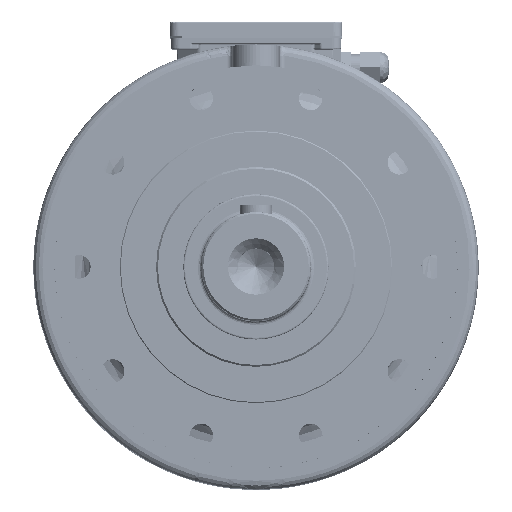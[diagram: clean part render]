
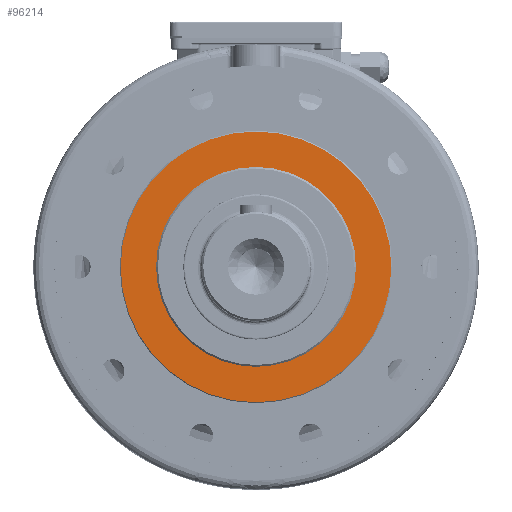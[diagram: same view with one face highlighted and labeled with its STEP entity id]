
A CAD part, top view. The second image highlights one B-rep face of the part: STEP entity #96214.
In plain terms, the highlighted planar face has unit normal (0, 0, 1).
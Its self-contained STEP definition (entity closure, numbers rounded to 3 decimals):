
#13419 = AXIS2_PLACEMENT_3D ( 'NONE', #67347, #67258, #67348 ) ;
#13422 = AXIS2_PLACEMENT_3D ( 'NONE', #67799, #67874, #67881 ) ;
#13448 = AXIS2_PLACEMENT_3D ( 'NONE', #67601, #67699, #67703 ) ;
#13463 = AXIS2_PLACEMENT_3D ( 'NONE', #67641, #67775, #67678 ) ;
#21041 = VERTEX_POINT ( 'NONE', #78286 ) ;
#21048 = VERTEX_POINT ( 'NONE', #78292 ) ;
#21071 = VERTEX_POINT ( 'NONE', #78367 ) ;
#21106 = VERTEX_POINT ( 'NONE', #78404 ) ;
#33585 = ORIENTED_EDGE ( 'NONE', *, *, #194106, .T. ) ;
#33659 = ORIENTED_EDGE ( 'NONE', *, *, #194043, .F. ) ;
#33706 = ORIENTED_EDGE ( 'NONE', *, *, #194107, .F. ) ;
#33750 = ORIENTED_EDGE ( 'NONE', *, *, #194082, .T. ) ;
#47173 = FACE_BOUND ( 'NONE', #178630, .T. ) ;
#50375 = FACE_OUTER_BOUND ( 'NONE', #178673, .T. ) ;
#56908 = CIRCLE ( 'NONE', #13419, 74.5 ) ;
#57012 = CIRCLE ( 'NONE', #13422, 74.5 ) ;
#57030 = CIRCLE ( 'NONE', #13448, 55. ) ;
#57034 = CIRCLE ( 'NONE', #13463, 55. ) ;
#66324 = DIRECTION ( 'NONE',  ( 0., -1., 0. ) ) ;
#66358 = DIRECTION ( 'NONE',  ( 0., 0., 1. ) ) ;
#66414 = PLANE ( 'NONE',  #89506 ) ;
#66450 = CARTESIAN_POINT ( 'NONE',  ( 0., 74.5, 133.6 ) ) ;
#67258 = DIRECTION ( 'NONE',  ( 0., 0., -1. ) ) ;
#67347 = CARTESIAN_POINT ( 'NONE',  ( 0., 0., 133.6 ) ) ;
#67348 = DIRECTION ( 'NONE',  ( 0., 1., 0. ) ) ;
#67601 = CARTESIAN_POINT ( 'NONE',  ( 0., 0., 133.6 ) ) ;
#67641 = CARTESIAN_POINT ( 'NONE',  ( 0., 0., 133.6 ) ) ;
#67678 = DIRECTION ( 'NONE',  ( -1., 0., 0. ) ) ;
#67699 = DIRECTION ( 'NONE',  ( 0., 0., -1. ) ) ;
#67703 = DIRECTION ( 'NONE',  ( -1., 0., 0. ) ) ;
#67775 = DIRECTION ( 'NONE',  ( 0., 0., -1. ) ) ;
#67799 = CARTESIAN_POINT ( 'NONE',  ( 0., 0., 133.6 ) ) ;
#67874 = DIRECTION ( 'NONE',  ( 0., 0., -1. ) ) ;
#67881 = DIRECTION ( 'NONE',  ( 0., 1., 0. ) ) ;
#78286 = CARTESIAN_POINT ( 'NONE',  ( -55., 0., 133.6 ) ) ;
#78292 = CARTESIAN_POINT ( 'NONE',  ( 55., 0., 133.6 ) ) ;
#78367 = CARTESIAN_POINT ( 'NONE',  ( 0., 74.5, 133.6 ) ) ;
#78404 = CARTESIAN_POINT ( 'NONE',  ( 0., -74.5, 133.6 ) ) ;
#89506 = AXIS2_PLACEMENT_3D ( 'NONE', #66450, #66358, #66324 ) ;
#96214 = ADVANCED_FACE ( 'NONE', ( #50375, #47173 ), #66414, .T. ) ;
#178630 = EDGE_LOOP ( 'NONE', ( #33750, #33585 ) ) ;
#178673 = EDGE_LOOP ( 'NONE', ( #33659, #33706 ) ) ;
#194043 = EDGE_CURVE ( 'NONE', #21071, #21106, #56908, .T. ) ;
#194082 = EDGE_CURVE ( 'NONE', #21041, #21048, #57030, .T. ) ;
#194106 = EDGE_CURVE ( 'NONE', #21048, #21041, #57034, .T. ) ;
#194107 = EDGE_CURVE ( 'NONE', #21106, #21071, #57012, .T. ) ;
